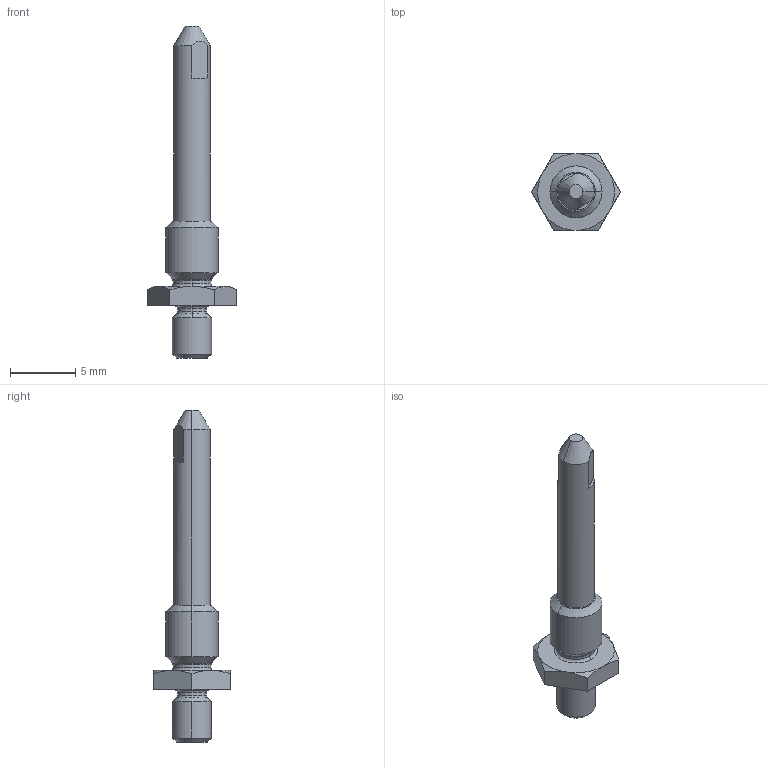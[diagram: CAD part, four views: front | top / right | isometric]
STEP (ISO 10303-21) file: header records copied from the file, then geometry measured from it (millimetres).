
FILE_DESCRIPTION(('CATIA V5 STEP Exchange','CAx-IF Rec.Pracs.--- Model Styling and Organization---1.4--- 2014-01-23','CAx-IF Rec.Pracs.---3D Tessellated Data Validation Properties---0.5---2014-09-14'),'2;1');
FILE_NAME('D:\CTA\NECTARCAM PROD\CTA-01 - Camera Module\CTA-0102 - FrontEnd Board\CTA-010202 - Mechanical Structure\CTA-010202-004_2 - Module_Locking_Pin.stp','2026-03-13T09:39:40+00:00',('none'),('none'),'CATIA Version 5-6 Release 2018 SP5 HF4','CATIA V5 STEP AP242','none');
FILE_SCHEMA(('AP242_MANAGED_MODEL_BASED_3D_ENGINEERING_MIM_LF {1 0 10303 442 1 1 4}'));
Length unit declared in the file: millimetre
Products named in the file (1): CTA-010202-004_v2
Bounding box: 6.81 x 5.9 x 25.5 mm (x, y, z)
Volume: 214.2 mm3; surface area: 315.3 mm2
Topology: 1 solids, 1 shells, 49 faces, 108 edges, 64 vertices
Faces by surface type: cone 16, plane 15, cylinder 10, torus 8
Entity records: 1276 total; most frequent: CARTESIAN_POINT 267, ORIENTED_EDGE 216, DIRECTION 166, EDGE_CURVE 108, AXIS2_PLACEMENT_3D 93, VERTEX_POINT 64, CIRCLE 56, EDGE_LOOP 52
